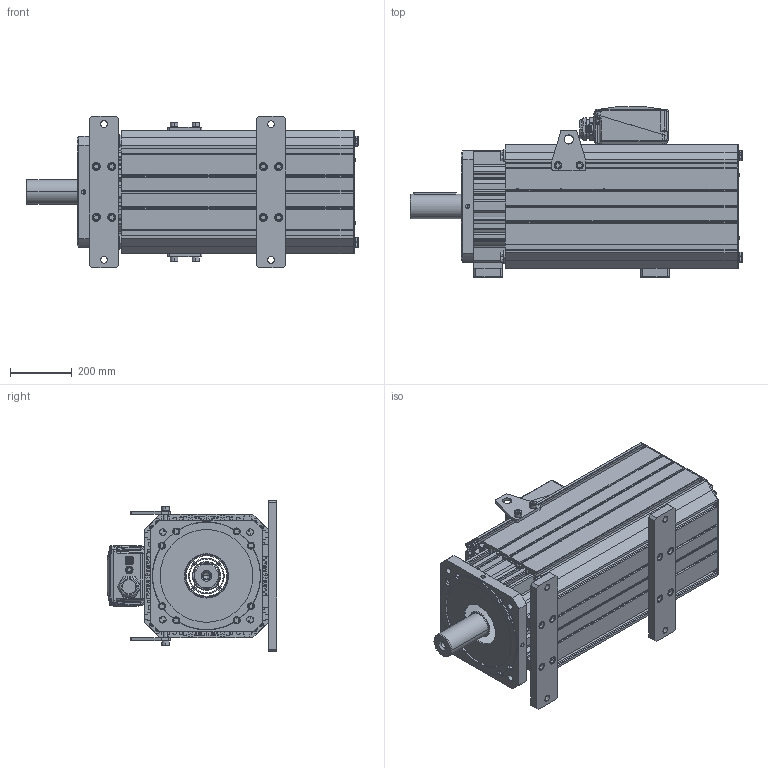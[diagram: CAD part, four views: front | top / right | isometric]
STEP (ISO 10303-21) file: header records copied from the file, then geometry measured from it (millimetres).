
FILE_DESCRIPTION((''),'2;1');
FILE_NAME('54071N-1_SW0001','2016-06-12T',('nifangliang'),(''),'PRO/ENGINEER BY PARAMETRIC TECHNOLOGY CORPORATION, 2010430','PRO/ENGINEER BY PARAMETRIC TECHNOLOGY CORPORATION, 2010430','');
FILE_SCHEMA(('CONFIG_CONTROL_DESIGN'));
Products named in the file (1): 54071N-1_SW0001
Bounding box: 1074 x 549.62 x 490.5 mm (x, y, z)
Surface area: 8721976.8 mm2 (no closed solid volume)
Topology: 0 solids, 154 shells, 2955 faces, 9359 edges, 6503 vertices
Faces by surface type: plane 1696, cylinder 715, bspline 284, cone 156, torus 96, sphere 8
Entity records: 143621 total; most frequent: CARTESIAN_POINT 65007, DIRECTION 15431, ORIENTED_EDGE 14997, EDGE_CURVE 9343, VERTEX_POINT 6501, VECTOR 5861, LINE 5861, AXIS2_PLACEMENT_3D 4785
